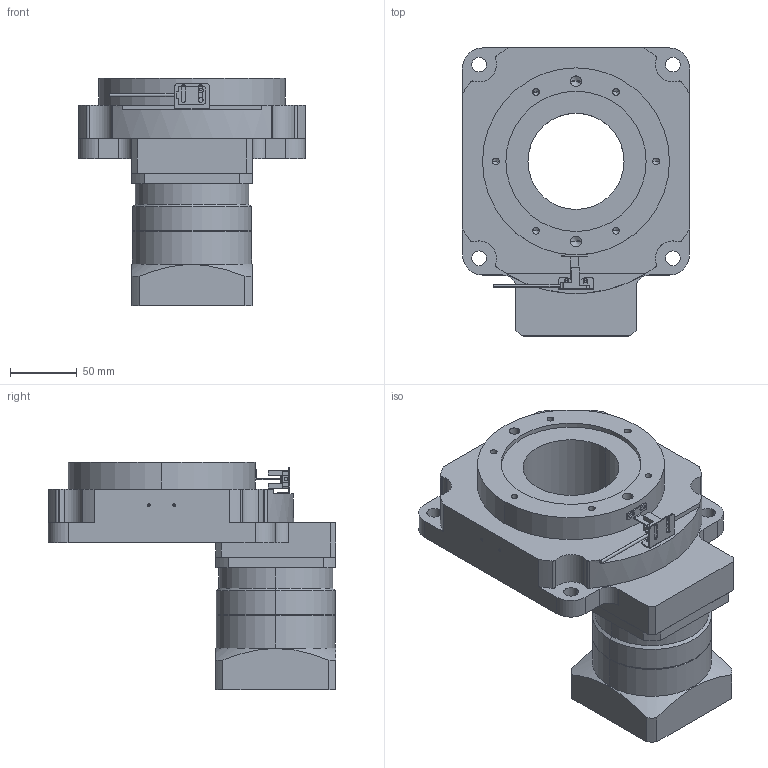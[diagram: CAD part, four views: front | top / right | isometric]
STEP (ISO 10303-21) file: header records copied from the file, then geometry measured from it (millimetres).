
FILE_DESCRIPTION (( 'STEP AP203' ), '1' );
FILE_NAME ('RTP170-10K(饜90俴陎3-10掀).STEP', '2024-05-21T10:49:45', ( '' ), ( '' ), 'SwSTEP 2.0', 'SolidWorks 2023', '' );
FILE_SCHEMA (( 'CONFIG_CONTROL_DESIGN' ));
Length unit declared in the file: millimetre
Products named in the file (1): RTP170-10K(配90行星3-10比)
Bounding box: 170 x 215.56 x 170 mm (x, y, z)
Volume: 1859271.8 mm3; surface area: 205863.3 mm2
Topology: 7 solids, 23 shells, 704 faces, 1758 edges, 1080 vertices
Faces by surface type: cylinder 299, plane 266, cone 123, torus 16
Entity records: 21436 total; most frequent: CARTESIAN_POINT 4316, DIRECTION 3803, ORIENTED_EDGE 3356, EDGE_CURVE 1678, AXIS2_PLACEMENT_3D 1443, VERTEX_POINT 1080, VECTOR 917, LINE 917
